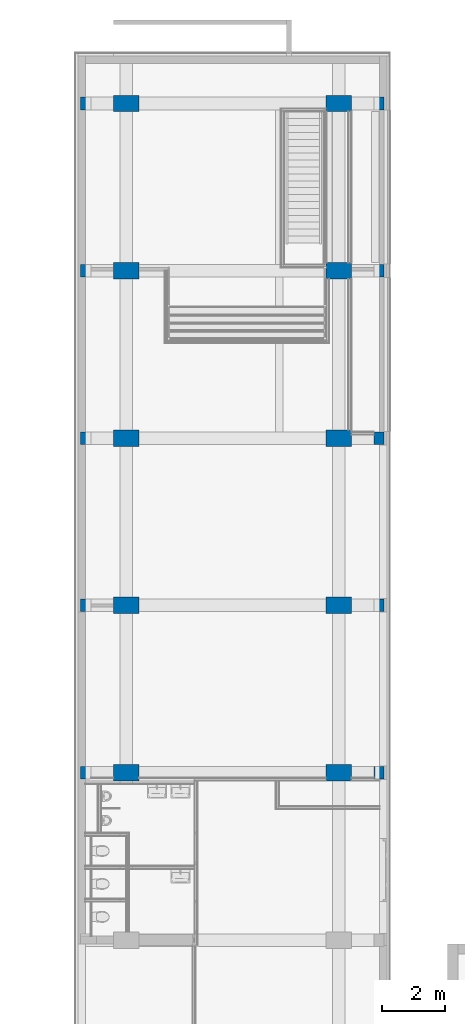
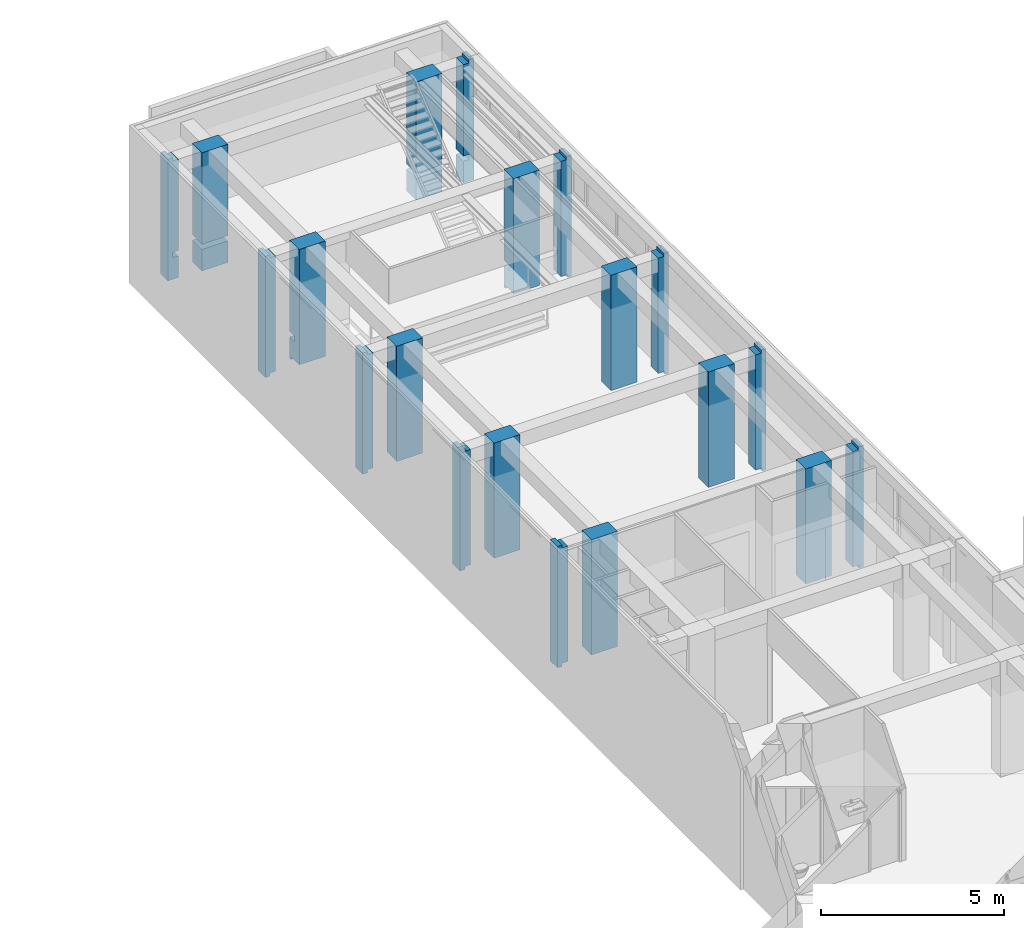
# One storey, part 52 of 135: 20 columns.
"""IFC2X3 building model written with IfcOpenShell, lengths in millimetres."""

from ifc_helpers import new_model, entity, si_unit, converted_unit, derived_unit, money_unit, direction, frame, origin_with_axes, place, context, subcontext, project, spatial, faceted_brep, material, type_object, element, save


model = new_model("IFC2X3")

# Units and contexts
model_context = context("Model", 3, precision=0.01, world=origin_with_axes(), true_north=direction((0.0, 1.0)))
body_context = subcontext(model_context, "Body", "Model", "MODEL_VIEW")
ifc_project = project(units=[si_unit("LENGTHUNIT", "METRE", prefix="MILLI"), si_unit("AREAUNIT", "SQUARE_METRE"), si_unit("VOLUMEUNIT", "CUBIC_METRE"), converted_unit("PLANEANGLEUNIT", "DEGREE", entity("IfcPlaneAngleMeasure", 0.0174532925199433), si_unit("PLANEANGLEUNIT", "RADIAN"), dimensions=[0, 0, 0, 0, 0, 0, 0]), money_unit("EUR"), converted_unit("TIMEUNIT", "Year", entity("IfcTimeMeasure", 31557600.0), si_unit("TIMEUNIT", "SECOND"), dimensions=[0, 0, 1, 0, 0, 0, 0]), si_unit("MASSUNIT", "GRAM", prefix="KILO"), si_unit("THERMODYNAMICTEMPERATUREUNIT", "DEGREE_CELSIUS"), si_unit("LUMINOUSINTENSITYUNIT", "LUMEN"), si_unit("ENERGYUNIT", "JOULE", prefix="MEGA"), derived_unit("THERMALCONDUCTANCEUNIT", [(si_unit("POWERUNIT", "WATT"), 1), (si_unit("LENGTHUNIT", "METRE"), -1), (si_unit("THERMODYNAMICTEMPERATUREUNIT", "KELVIN"), -1)]), derived_unit("SPECIFICHEATCAPACITYUNIT", [(si_unit("ENERGYUNIT", "JOULE"), 1), (si_unit("MASSUNIT", "GRAM", prefix="KILO"), -1), (si_unit("THERMODYNAMICTEMPERATUREUNIT", "KELVIN"), -1)]), derived_unit("MASSDENSITYUNIT", [(si_unit("MASSUNIT", "GRAM", prefix="KILO"), 1), (si_unit("VOLUMEUNIT", "CUBIC_METRE"), -1)])], contexts=[model_context])

# Site, building, storey
site_placement = place(None, origin_with_axes())
site = spatial("IfcSite", under=ifc_project, at=site_placement, Name="Site", CompositionType="ELEMENT")
building_placement = place(site_placement, origin_with_axes())
building = spatial("IfcBuilding", under=site, at=building_placement, Name="Naam gebouw", CompositionType="ELEMENT")
storey_placement = place(building_placement, origin_with_axes())
storey = spatial("IfcBuildingStorey", under=building, at=storey_placement, Name="Begane grond N", CompositionType="ELEMENT", Elevation=0.0)

# Columns
ifc_material = material(Name="ALG - CONSTRUCTIEF KOLOM")
column_type_1 = type_object("IfcColumnType", Name="ALG - CONSTRUCTIEF KOLOM 525 x 820", PredefinedType="COLUMN")
column_1_placement = place(storey_placement, frame((21836.0, 54605.9124251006, -100.0), z_axis=(0.0, 0.0, 1.0), x_axis=(0.0, -1.0, 0.0)))
element("IfcColumn", 1, at=column_1_placement, inside=storey, type_object=column_type_1, material=ifc_material, Name="_Kolom-x", ObjectType="COLUMN", context=body_context, shape_type="Brep", body=[
    faceted_brep([(-262.5000000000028, -410.0000000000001, 0.0), (-262.5000000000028, -410.0000000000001, 720.0000000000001), (-262.5000000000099, 410.0000000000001, 720.0000000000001), (-262.5000000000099, 410.0000000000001, 0.0), (262.5000000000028, -410.0000000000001, 0.0), (262.5000000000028, -410.0000000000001, 720.0000000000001), (262.4999999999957, 410.0000000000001, 720.0000000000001), (262.4999999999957, 410.0000000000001, 0.0)], [[[0, 1, 2, 3]], [[4, 5, 1, 0]], [[5, 6, 2, 1]], [[3, 2, 6, 7]], [[7, 4, 0, 3]], [[7, 6, 5, 4]]]),
    faceted_brep([(262.4999999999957, 410.0000000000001, 3950.0), (262.4999999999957, 410.0000000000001, 899.9999999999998), (-262.5000000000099, 410.0000000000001, 899.9999999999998), (-262.5000000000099, 410.0000000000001, 3950.0), (262.5000000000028, -410.0000000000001, 3950.0), (262.5000000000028, -410.0000000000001, 899.9999999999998), (-262.5000000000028, -410.0000000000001, 899.9999999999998), (-262.5000000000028, -410.0000000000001, 3950.0)], [[[0, 1, 2, 3]], [[4, 5, 1, 0]], [[5, 6, 2, 1]], [[3, 2, 6, 7]], [[4, 0, 3, 7]], [[7, 6, 5, 4]]]),
])
column_2_placement = place(storey_placement, frame((28605.99999999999, 33285.91242510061, -100.0), z_axis=(0.0, 0.0, 1.0), x_axis=(0.0, -1.0, 0.0)))
element("IfcColumn", 2, at=column_2_placement, inside=storey, type_object=column_type_1, material=ifc_material, Name="_Kolom-x", ObjectType="COLUMN", context=body_context, shape_type="Brep", body=[
    faceted_brep([(262.5000000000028, 410.0000000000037, 3950.0), (262.5000000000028, 410.0000000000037, 100.0), (-262.5000000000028, 410.0000000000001, 100.0), (-262.5000000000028, 410.0000000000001, 3950.0), (262.5000000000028, -409.9999999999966, 3950.0), (262.5000000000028, -409.9999999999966, 100.0), (-262.5000000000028, -410.0000000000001, 100.0), (-262.5000000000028, -410.0000000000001, 3950.0)], [[[0, 1, 2, 3]], [[4, 5, 1, 0]], [[5, 6, 2, 1]], [[3, 2, 6, 7]], [[4, 0, 3, 7]], [[7, 6, 5, 4]]]),
])
column_3_placement = place(storey_placement, frame((21836.0, 38615.91242510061, -100.0), z_axis=(0.0, 0.0, 1.0), x_axis=(0.0, -1.0, 0.0)))
element("IfcColumn", 3, at=column_3_placement, inside=storey, type_object=column_type_1, material=ifc_material, Name="_Kolom-x", ObjectType="COLUMN", context=body_context, shape_type="Brep", body=[
    faceted_brep([(262.4999999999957, 410.0000000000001, 3950.0), (262.4999999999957, 410.0000000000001, 100.0), (-262.5000000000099, 410.0000000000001, 100.0), (-262.5000000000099, 410.0000000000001, 3950.0), (262.5000000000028, -410.0000000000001, 3950.0), (262.5000000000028, -410.0000000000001, 100.0), (-262.5000000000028, -410.0000000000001, 100.0), (-262.5000000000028, -410.0000000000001, 3950.0)], [[[0, 1, 2, 3]], [[4, 5, 1, 0]], [[5, 6, 2, 1]], [[3, 2, 6, 7]], [[4, 0, 3, 7]], [[7, 6, 5, 4]]]),
])
column_4_placement = place(storey_placement, frame((28605.99999999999, 38615.91242510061, -100.0), z_axis=(0.0, 0.0, 1.0), x_axis=(0.0, -1.0, 0.0)))
element("IfcColumn", 4, at=column_4_placement, inside=storey, type_object=column_type_1, material=ifc_material, Name="_Kolom-x", ObjectType="COLUMN", context=body_context, shape_type="Brep", body=[
    faceted_brep([(262.5000000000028, 410.0000000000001, 3950.0), (262.5000000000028, 410.0000000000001, 100.0), (-262.5000000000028, 410.0000000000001, 100.0), (-262.5000000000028, 410.0000000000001, 3950.0), (262.5000000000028, -410.0000000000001, 3950.0), (262.5000000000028, -410.0000000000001, 100.0), (-262.5000000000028, -410.0000000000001, 100.0), (-262.5000000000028, -410.0000000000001, 3950.0)], [[[0, 1, 2, 3]], [[4, 5, 1, 0]], [[5, 6, 2, 1]], [[3, 2, 6, 7]], [[4, 0, 3, 7]], [[7, 6, 5, 4]]]),
])
column_5_placement = place(storey_placement, frame((21836.0, 43945.9124251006, -100.0), z_axis=(0.0, 0.0, 1.0), x_axis=(0.0, -1.0, 0.0)))
element("IfcColumn", 5, at=column_5_placement, inside=storey, type_object=column_type_1, material=ifc_material, Name="_Kolom-x", ObjectType="COLUMN", context=body_context, shape_type="Brep", body=[
    faceted_brep([(262.4999999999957, 410.0000000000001, 3950.0), (262.4999999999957, 410.0000000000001, 100.0), (-262.5000000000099, 410.0000000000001, 100.0), (-262.5000000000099, 410.0000000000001, 3950.0), (262.5000000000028, -410.0000000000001, 3950.0), (262.5000000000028, -410.0000000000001, 100.0), (-262.5000000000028, -410.0000000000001, 100.0), (-262.5000000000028, -410.0000000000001, 3950.0)], [[[0, 1, 2, 3]], [[4, 5, 1, 0]], [[5, 6, 2, 1]], [[3, 2, 6, 7]], [[4, 0, 3, 7]], [[7, 6, 5, 4]]]),
])
column_6_placement = place(storey_placement, frame((28605.99999999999, 43945.9124251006, -100.0), z_axis=(0.0, 0.0, 1.0), x_axis=(0.0, -1.0, 0.0)))
element("IfcColumn", 6, at=column_6_placement, inside=storey, type_object=column_type_1, material=ifc_material, Name="_Kolom-x", ObjectType="COLUMN", context=body_context, shape_type="Brep", body=[
    faceted_brep([(262.5000000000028, 410.0000000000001, 3950.0), (262.5000000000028, 410.0000000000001, 100.0), (-262.5000000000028, 410.0000000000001, 100.0), (-262.5000000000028, 410.0000000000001, 3950.0), (262.5000000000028, -410.0000000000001, 3950.0), (262.5000000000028, -410.0000000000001, 100.0), (-262.5000000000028, -410.0000000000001, 100.0), (-262.5000000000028, -410.0000000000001, 3950.0)], [[[0, 1, 2, 3]], [[4, 5, 1, 0]], [[5, 6, 2, 1]], [[3, 2, 6, 7]], [[4, 0, 3, 7]], [[7, 6, 5, 4]]]),
])
column_7_placement = place(storey_placement, frame((21836.0, 49275.9124251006, -100.0), z_axis=(0.0, 0.0, 1.0), x_axis=(0.0, -1.0, 0.0)))
element("IfcColumn", 7, at=column_7_placement, inside=storey, type_object=column_type_1, material=ifc_material, Name="_Kolom-x", ObjectType="COLUMN", context=body_context, shape_type="Brep", body=[
    faceted_brep([(262.4999999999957, 410.0000000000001, 100.0), (-199.9999999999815, 410.0000000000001, 100.0), (-200.0000000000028, 410.0000000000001, 0.0), (-262.5000000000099, 410.0000000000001, 0.0), (-262.5000000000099, 410.0000000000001, 720.0000000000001), (2.42022935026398e-06, 410.0000000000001, 720.0000000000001), (2.42022935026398e-06, 410.0000000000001, 900.0), (-262.5000000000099, 410.0000000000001, 899.9999999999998), (-262.5000000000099, 410.0000000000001, 3950.0), (262.4999999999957, 410.0000000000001, 3950.0), (-199.9999999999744, -410.0000000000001, 100.0), (262.5000000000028, -410.0000000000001, 100.0), (-199.9999999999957, -410.0000000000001, 0.0), (-262.5000000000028, -410.0000000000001, 0.0), (-262.5000000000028, -410.0000000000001, 720.0000000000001), (1.467547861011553e-06, -410.0000000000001, 720.0000000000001), (1.467547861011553e-06, -410.0000000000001, 900.0), (-262.5000000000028, -410.0000000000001, 899.9999999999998), (-262.5000000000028, -410.0000000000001, 3950.0), (262.5000000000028, -410.0000000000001, 3950.0)], [[[0, 1, 2, 3, 4, 5, 6, 7, 8, 9]], [[10, 1, 0, 11]], [[12, 2, 1, 10]], [[3, 2, 12, 13]], [[13, 14, 4, 3]], [[15, 5, 4, 14]], [[16, 6, 5, 15]], [[16, 17, 7, 6]], [[8, 7, 17, 18]], [[19, 9, 8, 18]], [[19, 11, 0, 9]], [[12, 10, 11, 19, 18, 17, 16, 15, 14, 13]]]),
])
column_8_placement = place(storey_placement, frame((28605.99999999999, 49275.9124251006, -100.0), z_axis=(0.0, 0.0, 1.0), x_axis=(0.0, -1.0, 0.0)))
element("IfcColumn", 8, at=column_8_placement, inside=storey, type_object=column_type_1, material=ifc_material, Name="_Kolom-x", ObjectType="COLUMN", context=body_context, shape_type="Brep", body=[
    faceted_brep([(262.5000000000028, 410.0000000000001, 100.0), (-199.9999999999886, 410.0000000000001, 100.0), (-199.9999999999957, 410.0000000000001, 0.0), (-262.5000000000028, 410.0000000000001, 0.0), (-262.5000000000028, 410.0000000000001, 720.0000000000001), (0.0, 410.0000000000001, 720.0000000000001), (0.0, 410.0000000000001, 900.0), (-262.5000000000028, 410.0000000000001, 899.9999999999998), (-262.5000000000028, 410.0000000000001, 3950.0), (262.5000000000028, 410.0000000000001, 3950.0), (-199.9999999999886, -410.0000000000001, 100.0), (262.5000000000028, -410.0000000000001, 100.0), (-199.9999999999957, -410.0000000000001, 0.0), (-262.5000000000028, -410.0000000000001, 0.0), (-262.5000000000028, -410.0000000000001, 720.0000000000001), (0.0, -409.9999999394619, 720.0000000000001), (0.0, -409.9999999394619, 900.0), (-262.5000000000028, -410.0000000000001, 899.9999999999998), (-262.5000000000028, -410.0000000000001, 3950.0), (262.5000000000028, -410.0000000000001, 3950.0)], [[[0, 1, 2, 3, 4, 5, 6, 7, 8, 9]], [[10, 1, 0, 11]], [[12, 2, 1, 10]], [[3, 2, 12, 13]], [[13, 14, 4, 3]], [[15, 5, 4, 14]], [[16, 6, 5, 15]], [[16, 17, 7, 6]], [[8, 7, 17, 18]], [[19, 9, 8, 18]], [[19, 11, 0, 9]], [[12, 10, 11, 19, 18, 17, 16, 15, 14, 13]]]),
])
column_9_placement = place(storey_placement, frame((28605.99999999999, 54605.9124251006, -100.0), z_axis=(0.0, 0.0, 1.0), x_axis=(0.0, -1.0, 0.0)))
element("IfcColumn", 9, at=column_9_placement, inside=storey, type_object=column_type_1, material=ifc_material, Name="_Kolom-x", ObjectType="COLUMN", context=body_context, shape_type="Brep", body=[
    faceted_brep([(-262.5000000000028, -410.0000000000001, 0.0), (-262.5000000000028, -410.0000000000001, 720.0000000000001), (-262.5000000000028, 410.0000000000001, 720.0000000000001), (-262.5000000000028, 410.0000000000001, 0.0), (262.5000000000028, -410.0000000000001, 0.0), (262.5000000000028, -410.0000000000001, 720.0000000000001), (262.5000000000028, 410.0000000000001, 720.0000000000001), (262.5000000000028, 410.0000000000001, 0.0)], [[[0, 1, 2, 3]], [[4, 5, 1, 0]], [[5, 6, 2, 1]], [[3, 2, 6, 7]], [[7, 4, 0, 3]], [[7, 6, 5, 4]]]),
    faceted_brep([(262.5000000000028, 410.0000000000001, 3950.0), (262.5000000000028, 410.0000000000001, 899.9999999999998), (-262.5000000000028, 410.0000000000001, 899.9999999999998), (-262.5000000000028, 410.0000000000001, 3950.0), (262.5000000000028, -410.0000000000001, 3950.0), (262.5000000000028, -410.0000000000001, 899.9999999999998), (-262.5000000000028, -410.0000000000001, 899.9999999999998), (-262.5000000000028, -410.0000000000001, 3950.0)], [[[0, 1, 2, 3]], [[4, 5, 1, 0]], [[5, 6, 2, 1]], [[3, 2, 6, 7]], [[4, 0, 3, 7]], [[7, 6, 5, 4]]]),
])
column_10_placement = place(storey_placement, frame((21836.0, 33285.91242510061, -100.0), z_axis=(0.0, 0.0, 1.0), x_axis=(0.0, -1.0, 0.0)))
element("IfcColumn", 10, at=column_10_placement, inside=storey, type_object=column_type_1, material=ifc_material, Name="_Kolom-x", ObjectType="COLUMN", context=body_context, shape_type="Brep", body=[
    faceted_brep([(262.4999999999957, 410.0000000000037, 3950.0), (262.4999999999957, 410.0000000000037, 100.0), (-262.5000000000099, 410.0000000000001, 100.0), (-262.5000000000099, 410.0000000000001, 3950.0), (262.5000000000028, -409.9999999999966, 3950.0), (262.5000000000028, -409.9999999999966, 100.0), (-262.5000000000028, -410.0000000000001, 100.0), (-262.5000000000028, -410.0000000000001, 3950.0)], [[[0, 1, 2, 3]], [[4, 5, 1, 0]], [[5, 6, 2, 1]], [[3, 2, 6, 7]], [[4, 0, 3, 7]], [[7, 6, 5, 4]]]),
])
column_type_2 = type_object("IfcColumnType", Name="ALG - CONSTRUCTIEF KOLOM 400 x 330", PredefinedType="COLUMN")
column_11_placement = place(storey_placement, frame((20551.0, 49275.9124251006, -100.0), z_axis=(0.0, 0.0, 1.0), x_axis=(0.0, -1.0, 0.0)))
element("IfcColumn", 11, at=column_11_placement, inside=storey, type_object=column_type_2, material=ifc_material, Name="_Kolom-x", ObjectType="COLUMN", context=body_context, shape_type="Brep", body=[
    faceted_brep([(200.0000000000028, 164.9999999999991, 3950.0), (200.0000000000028, 164.9999999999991, 100.0), (-199.9999999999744, 164.9999999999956, 100.0), (-200.0000000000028, 164.9999999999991, 720.0000000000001), (6.426574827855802e-07, 164.9999999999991, 720.0000000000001), (6.426574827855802e-07, 164.9999999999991, 900.0), (-200.0000000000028, 164.9999999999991, 899.9999999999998), (-200.0000000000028, 164.9999999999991, 3950.0), (200.0000000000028, -15.00000000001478, 0.0), (200.0000000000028, -15.00000000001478, 100.0), (200.0000000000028, -15.00000000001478, 3950.0), (200.0000000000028, -15.00000000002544, 4050.000000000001), (200.0000000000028, -164.9999999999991, 4050.000000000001), (200.0000000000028, -164.9999999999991, 0.0), (-199.9999999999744, -15.00000000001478, 100.0), (-199.9999999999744, -15.00000000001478, 0.0), (-200.0000000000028, -164.9999999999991, 0.0), (-200.0000000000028, -164.9999999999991, 4050.000000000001), (-200.0000000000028, -15.00000000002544, 4050.000000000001), (-200.0000000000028, -15.00000000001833, 3950.0), (-200.0000000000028, -15.00000000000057, 900.0), (-200.0000000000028, -15.00000000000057, 720.0000000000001), (4.335305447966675e-07, -15.00000000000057, 720.0000000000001), (4.335305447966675e-07, -15.00000000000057, 900.0)], [[[0, 1, 2, 3, 4, 5, 6, 7]], [[8, 9, 1, 0, 10, 11, 12, 13]], [[9, 14, 2, 1]], [[2, 14, 15, 16, 17, 18, 19, 7, 6, 20, 21, 3]], [[22, 4, 3, 21]], [[23, 5, 4, 22]], [[23, 20, 6, 5]], [[10, 0, 7, 19]], [[8, 15, 14, 9]], [[10, 19, 18, 11]], [[12, 11, 18, 17]], [[12, 17, 16, 13]], [[16, 15, 8, 13]], [[22, 21, 20, 23]]]),
])
column_12_placement = place(storey_placement, frame((29891.0, 33285.91242510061, -100.0), z_axis=(0.0, 0.0, 1.0), x_axis=(0.0, -1.0, 0.0)))
element("IfcColumn", 12, at=column_12_placement, inside=storey, type_object=column_type_2, material=ifc_material, Name="_Kolom-x", ObjectType="COLUMN", context=body_context, shape_type="Brep", body=[
    faceted_brep([(-200.0000000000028, 22.82468788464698, 0.0), (-200.0000000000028, 22.82468788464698, 100.0), (-200.0000000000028, -164.9999999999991, 100.0), (-200.0000000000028, -164.9999999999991, 3950.0), (-200.0000000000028, 14.99999999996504, 3950.0), (-200.0000000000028, 14.99999999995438, 4050.000000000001), (-200.0000000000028, 164.9999999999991, 4050.000000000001), (-200.0000000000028, 164.9999999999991, 0.0), (200.0000000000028, 22.2760682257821, 100.0), (200.0000000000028, 22.2760682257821, 0.0), (200.0000000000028, -164.9999999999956, 100.0), (200.0000000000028, -164.9999999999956, 3950.0), (200.0000000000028, 14.99999999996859, 3950.0), (200.0000000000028, 14.99999999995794, 4050.000000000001), (200.0000000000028, 165.0000000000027, 4050.000000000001), (200.0000000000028, 165.0000000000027, 0.0)], [[[0, 1, 2, 3, 4, 5, 6, 7]], [[8, 1, 0, 9]], [[10, 2, 1, 8]], [[3, 2, 10, 11]], [[12, 4, 3, 11]], [[12, 13, 5, 4]], [[6, 5, 13, 14]], [[6, 14, 15, 7]], [[15, 9, 0, 7]], [[10, 8, 9, 15, 14, 13, 12, 11]]]),
])
column_13_placement = place(storey_placement, frame((20551.0, 38615.91242510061, -100.0), z_axis=(0.0, 0.0, 1.0), x_axis=(0.0, -1.0, 0.0)))
element("IfcColumn", 13, at=column_13_placement, inside=storey, type_object=column_type_2, material=ifc_material, Name="_Kolom-x", ObjectType="COLUMN", context=body_context, shape_type="Brep", body=[
    faceted_brep([(200.0000000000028, 164.9999999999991, 3950.0), (200.0000000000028, 164.9999999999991, 100.0), (-200.0000000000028, 164.9999999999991, 100.0), (-200.0000000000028, 164.9999999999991, 3950.0), (200.0000000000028, -15.00000000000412, 0.0), (200.0000000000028, -15.00000000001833, 100.0), (200.0000000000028, -15.00000000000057, 3950.0), (200.0000000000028, -15.00000000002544, 4050.000000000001), (200.0000000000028, -164.9999999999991, 4050.000000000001), (200.0000000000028, -164.9999999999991, 0.0), (-200.0000000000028, -15.00000000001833, 100.0), (-200.0000000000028, -15.00000000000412, 0.0), (-200.0000000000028, -164.9999999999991, 0.0), (-200.0000000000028, -164.9999999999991, 4050.000000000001), (-200.0000000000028, -15.00000000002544, 4050.000000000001), (-200.0000000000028, -15.00000000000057, 3950.0)], [[[0, 1, 2, 3]], [[4, 5, 1, 0, 6, 7, 8, 9]], [[5, 10, 2, 1]], [[2, 10, 11, 12, 13, 14, 15, 3]], [[6, 0, 3, 15]], [[4, 11, 10, 5]], [[6, 15, 14, 7]], [[8, 7, 14, 13]], [[8, 13, 12, 9]], [[12, 11, 4, 9]]]),
])
column_14_placement = place(storey_placement, frame((29891.0, 38615.91242510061, -100.0), z_axis=(0.0, 0.0, 1.0), x_axis=(0.0, -1.0, 0.0)))
element("IfcColumn", 14, at=column_14_placement, inside=storey, type_object=column_type_2, material=ifc_material, Name="_Kolom-x", ObjectType="COLUMN", context=body_context, shape_type="Brep", body=[
    faceted_brep([(-200.0000000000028, 30.13504483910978, 0.0), (-200.0000000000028, 30.13504483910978, 100.0), (-200.0000000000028, -164.9999999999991, 100.0), (-200.0000000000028, -164.9999999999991, 3950.0), (-200.0000000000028, 14.9999999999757, 3950.0), (-200.0000000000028, 14.99999999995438, 4050.000000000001), (-200.0000000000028, 164.9999999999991, 4050.000000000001), (-200.0000000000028, 164.9999999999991, 0.0), (200.0000000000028, 29.5864251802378, 100.0), (200.0000000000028, 29.5864251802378, 0.0), (200.0000000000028, -164.9999999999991, 100.0), (200.0000000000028, -164.9999999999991, 3950.0), (200.0000000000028, 14.99999999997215, 3950.0), (200.0000000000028, 14.99999999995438, 4050.000000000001), (200.0000000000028, 164.9999999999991, 4050.000000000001), (200.0000000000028, 164.9999999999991, 0.0)], [[[0, 1, 2, 3, 4, 5, 6, 7]], [[8, 1, 0, 9]], [[10, 2, 1, 8]], [[3, 2, 10, 11]], [[12, 4, 3, 11]], [[12, 13, 5, 4]], [[6, 5, 13, 14]], [[6, 14, 15, 7]], [[15, 9, 0, 7]], [[10, 8, 9, 15, 14, 13, 12, 11]]]),
])
column_15_placement = place(storey_placement, frame((29891.0, 43945.9124251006, -100.0), z_axis=(0.0, 0.0, 1.0), x_axis=(0.0, -1.0, 0.0)))
element("IfcColumn", 15, at=column_15_placement, inside=storey, type_object=column_type_2, material=ifc_material, Name="_Kolom-x", ObjectType="COLUMN", context=body_context, shape_type="Brep", body=[
    faceted_brep([(-200.0000000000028, 37.44540179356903, 0.0), (-200.0000000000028, 37.44540179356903, 100.0), (-200.0000000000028, -164.9999999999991, 100.0), (-200.0000000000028, -164.9999999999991, 3950.0), (-200.0000000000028, 14.9999999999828, 3950.0), (-200.0000000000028, 14.99999999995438, 4050.000000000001), (-200.0000000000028, 164.9999999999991, 4050.000000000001), (-200.0000000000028, 164.9999999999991, 0.0), (200.0000000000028, 36.89678213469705, 100.0), (200.0000000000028, 36.89678213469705, 0.0), (200.0000000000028, -164.9999999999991, 100.0), (200.0000000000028, -164.9999999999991, 3950.0), (200.0000000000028, 14.9999999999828, 3950.0), (200.0000000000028, 14.99999999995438, 4050.000000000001), (200.0000000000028, 164.9999999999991, 4050.000000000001), (200.0000000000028, 164.9999999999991, 0.0)], [[[0, 1, 2, 3, 4, 5, 6, 7]], [[8, 1, 0, 9]], [[10, 2, 1, 8]], [[3, 2, 10, 11]], [[12, 4, 3, 11]], [[12, 13, 5, 4]], [[6, 5, 13, 14]], [[6, 14, 15, 7]], [[15, 9, 0, 7]], [[10, 8, 9, 15, 14, 13, 12, 11]]]),
])
column_16_placement = place(storey_placement, frame((29891.0, 49275.9124251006, -100.0), z_axis=(0.0, 0.0, 1.0), x_axis=(0.0, -1.0, 0.0)))
element("IfcColumn", 16, at=column_16_placement, inside=storey, type_object=column_type_2, material=ifc_material, Name="_Kolom-x", ObjectType="COLUMN", context=body_context, shape_type="Brep", body=[
    faceted_brep([(-199.9999999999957, 44.75575874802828, 0.0), (-199.9999999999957, 44.75575874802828, 100.0), (-199.9999999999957, -164.9999999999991, 100.0), (-200.0000000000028, -164.9999999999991, 720.0000000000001), (-200.0000000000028, 15.00000000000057, 720.0000000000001), (-200.0000000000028, 15.00000000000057, 900.0), (-200.0000000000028, -164.9999999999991, 899.9999999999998), (-200.0000000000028, -164.9999999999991, 3950.0), (-200.0000000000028, 14.99999999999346, 3950.0), (-200.0000000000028, 14.99999999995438, 4050.000000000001), (-200.0000000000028, 164.9999999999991, 4050.000000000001), (-200.0000000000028, 164.9999999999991, 0.0), (200.0000000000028, 44.2071390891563, 100.0), (200.0000000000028, 44.2071390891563, 0.0), (200.0000000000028, -164.9999999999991, 100.0), (200.0000000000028, -164.9999999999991, 3950.0), (0.0, -164.9999999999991, 900.0), (0.0, -164.9999999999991, 720.0000000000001), (0.0, 15.00000000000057, 720.0000000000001), (0.0, 15.00000000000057, 900.0), (200.0000000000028, 14.99999999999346, 3950.0), (200.0000000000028, 14.99999999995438, 4050.000000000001), (200.0000000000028, 164.9999999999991, 4050.000000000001), (200.0000000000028, 164.9999999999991, 0.0)], [[[0, 1, 2, 3, 4, 5, 6, 7, 8, 9, 10, 11]], [[12, 1, 0, 13]], [[14, 2, 1, 12]], [[3, 2, 14, 15, 7, 6, 16, 17]], [[18, 4, 3, 17]], [[19, 5, 4, 18]], [[16, 6, 5, 19]], [[20, 8, 7, 15]], [[20, 21, 9, 8]], [[10, 9, 21, 22]], [[10, 22, 23, 11]], [[23, 13, 0, 11]], [[14, 12, 13, 23, 22, 21, 20, 15]], [[18, 17, 16, 19]]]),
])
column_17_placement = place(storey_placement, frame((20551.0, 43945.9124251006, -100.0), z_axis=(0.0, 0.0, 1.0), x_axis=(0.0, -1.0, 0.0)))
element("IfcColumn", 17, at=column_17_placement, inside=storey, type_object=column_type_2, material=ifc_material, Name="_Kolom-x", ObjectType="COLUMN", context=body_context, shape_type="Brep", body=[
    faceted_brep([(200.0000000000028, 164.9999999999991, 3950.0), (200.0000000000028, 164.9999999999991, 100.0), (-200.0000000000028, 164.9999999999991, 100.0), (-200.0000000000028, 164.9999999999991, 3950.0), (200.0000000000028, -15.00000000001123, 0.0), (200.0000000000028, -15.00000000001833, 100.0), (200.0000000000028, -15.00000000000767, 3950.0), (200.0000000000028, -15.00000000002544, 4050.000000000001), (200.0000000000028, -164.9999999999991, 4050.000000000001), (200.0000000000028, -164.9999999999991, 0.0), (-200.0000000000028, -15.00000000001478, 100.0), (-200.0000000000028, -15.00000000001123, 0.0), (-200.0000000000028, -164.9999999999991, 0.0), (-200.0000000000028, -164.9999999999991, 4050.000000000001), (-200.0000000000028, -15.00000000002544, 4050.000000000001), (-200.0000000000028, -15.00000000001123, 3950.0)], [[[0, 1, 2, 3]], [[4, 5, 1, 0, 6, 7, 8, 9]], [[5, 10, 2, 1]], [[2, 10, 11, 12, 13, 14, 15, 3]], [[6, 0, 3, 15]], [[4, 11, 10, 5]], [[6, 15, 14, 7]], [[8, 7, 14, 13]], [[8, 13, 12, 9]], [[12, 11, 4, 9]]]),
])
column_18_placement = place(storey_placement, frame((29891.0, 54605.9124251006, -100.0), z_axis=(0.0, 0.0, 1.0), x_axis=(0.0, -1.0, 0.0)))
element("IfcColumn", 18, at=column_18_placement, inside=storey, type_object=column_type_2, material=ifc_material, Name="_Kolom-x", ObjectType="COLUMN", context=body_context, shape_type="Brep", body=[
    faceted_brep([(-200.0000000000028, -164.9999999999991, 0.0), (-200.0000000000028, -164.9999999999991, 720.0000000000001), (-200.0000000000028, 15.00000000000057, 720.0000000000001), (-200.0000000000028, 15.00000000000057, 900.0), (-200.0000000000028, -164.9999999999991, 899.9999999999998), (-200.0000000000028, -164.9999999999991, 3950.0), (-200.0000000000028, 15.00000000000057, 3950.0), (-200.0000000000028, 14.99999999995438, 4050.000000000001), (-200.0000000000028, 164.9999999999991, 4050.000000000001), (-200.0000000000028, 164.9999999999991, 0.0), (200.0000000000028, -164.9999999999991, 0.0), (200.0000000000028, -164.9999999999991, 720.0000000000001), (200.0000000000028, 15.00000000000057, 720.0000000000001), (200.0000000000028, 15.00000000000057, 900.0), (200.0000000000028, -164.9999999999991, 899.9999999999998), (200.0000000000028, -164.9999999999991, 3950.0), (200.0000000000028, 15.00000000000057, 3950.0), (200.0000000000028, 14.99999999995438, 4050.000000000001), (200.0000000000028, 164.9999999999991, 4050.000000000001), (200.0000000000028, 164.9999999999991, 0.0)], [[[0, 1, 2, 3, 4, 5, 6, 7, 8, 9]], [[10, 11, 1, 0]], [[12, 2, 1, 11]], [[13, 3, 2, 12]], [[14, 4, 3, 13]], [[5, 4, 14, 15]], [[16, 6, 5, 15]], [[16, 17, 7, 6]], [[8, 7, 17, 18]], [[8, 18, 19, 9]], [[19, 10, 0, 9]], [[13, 12, 11, 10, 19, 18, 17, 16, 15, 14]]]),
])
column_19_placement = place(storey_placement, frame((20551.0, 54605.9124251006, -100.0), z_axis=(0.0, 0.0, 1.0), x_axis=(0.0, -1.0, 0.0)))
element("IfcColumn", 19, at=column_19_placement, inside=storey, type_object=column_type_2, material=ifc_material, Name="_Kolom-x", ObjectType="COLUMN", context=body_context, shape_type="Brep", body=[
    faceted_brep([(200.0000000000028, 164.9999999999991, 3950.0), (200.0000000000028, 164.9999999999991, 899.9999999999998), (-200.0000000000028, 164.9999999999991, 899.9999999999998), (-200.0000000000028, 164.9999999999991, 3950.0), (200.0000000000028, -15.00000000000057, 720.0000000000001), (200.0000000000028, -15.00000000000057, 900.0), (200.0000000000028, -15.00000000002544, 3950.0), (200.0000000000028, -15.00000000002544, 4050.000000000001), (200.0000000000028, -164.9999999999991, 4050.000000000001), (200.0000000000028, -164.9999999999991, 0.0), (200.0000000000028, 164.9999999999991, 0.0), (200.0000000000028, 164.9999999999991, 720.0000000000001), (-200.0000000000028, -15.00000000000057, 900.0), (-200.0000000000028, -15.00000000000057, 720.0000000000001), (-200.0000000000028, 164.9999999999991, 720.0000000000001), (-200.0000000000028, 164.9999999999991, 0.0), (-200.0000000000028, -164.9999999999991, 0.0), (-200.0000000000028, -164.9999999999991, 4050.000000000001), (-200.0000000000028, -15.00000000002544, 4050.000000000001), (-200.0000000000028, -15.00000000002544, 3950.0)], [[[0, 1, 2, 3]], [[4, 5, 1, 0, 6, 7, 8, 9, 10, 11]], [[5, 12, 2, 1]], [[12, 13, 14, 15, 16, 17, 18, 19, 3, 2]], [[6, 0, 3, 19]], [[4, 13, 12, 5]], [[6, 19, 18, 7]], [[8, 7, 18, 17]], [[8, 17, 16, 9]], [[10, 9, 16, 15]], [[15, 14, 11, 10]], [[4, 11, 14, 13]]]),
])
column_20_placement = place(storey_placement, frame((20551.0, 33285.91242510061, -100.0), z_axis=(0.0, 0.0, 1.0), x_axis=(0.0, -1.0, 0.0)))
element("IfcColumn", 20, at=column_20_placement, inside=storey, type_object=column_type_2, material=ifc_material, Name="_Kolom-x", ObjectType="COLUMN", context=body_context, shape_type="Brep", body=[
    faceted_brep([(200.0000000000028, 165.0000000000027, 3950.0), (200.0000000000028, 165.0000000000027, 100.0), (-200.0000000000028, 164.9999999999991, 100.0), (-200.0000000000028, 164.9999999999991, 3950.0), (200.0000000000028, -14.99999999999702, 0.0), (200.0000000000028, -15.00000000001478, 100.0), (200.0000000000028, -14.99999999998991, 3950.0), (200.0000000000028, -15.00000000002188, 4050.000000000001), (200.0000000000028, -164.9999999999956, 4050.000000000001), (200.0000000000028, -164.9999999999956, 0.0), (-200.0000000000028, -15.00000000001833, 100.0), (-200.0000000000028, -15.00000000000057, 0.0), (-200.0000000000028, -164.9999999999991, 0.0), (-200.0000000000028, -164.9999999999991, 4050.000000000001), (-200.0000000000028, -15.00000000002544, 4050.000000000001), (-200.0000000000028, -14.99999999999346, 3950.0)], [[[0, 1, 2, 3]], [[4, 5, 1, 0, 6, 7, 8, 9]], [[5, 10, 2, 1]], [[2, 10, 11, 12, 13, 14, 15, 3]], [[6, 0, 3, 15]], [[4, 11, 10, 5]], [[6, 15, 14, 7]], [[8, 7, 14, 13]], [[8, 13, 12, 9]], [[12, 11, 4, 9]]]),
])

save(model, "model.ifc")
